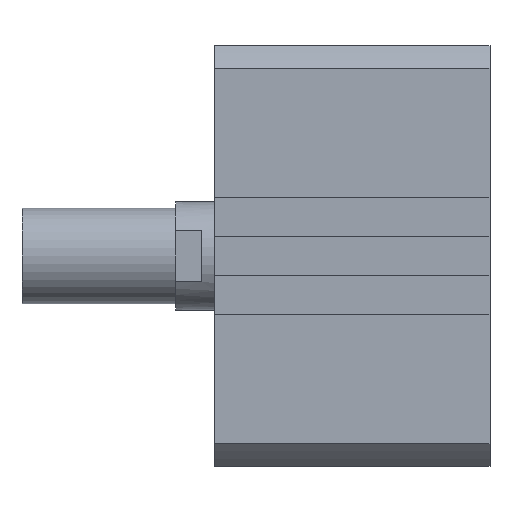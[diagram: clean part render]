
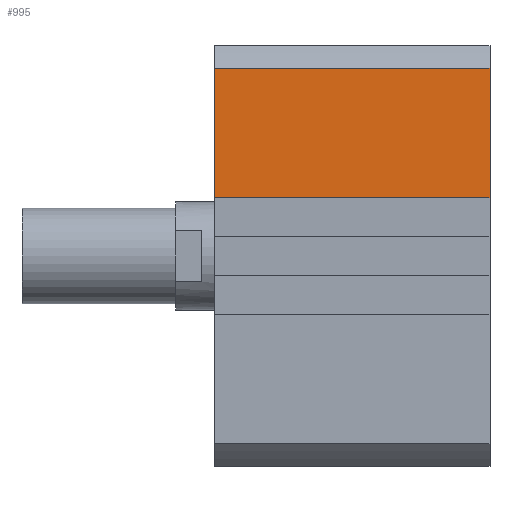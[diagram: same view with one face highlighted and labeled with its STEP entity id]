
A CAD part, left-side view. The second image highlights one B-rep face of the part: STEP entity #995.
In plain terms, the highlighted planar face has unit normal (-1, 0, 0).
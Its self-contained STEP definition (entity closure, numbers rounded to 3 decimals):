
#22 = LINE ( 'NONE', #1138, #660 ) ;
#46 = LINE ( 'NONE', #1944, #2120 ) ;
#54 = VECTOR ( 'NONE', #638, 1000. ) ;
#111 = EDGE_CURVE ( 'NONE', #1098, #2470, #22, .T. ) ;
#288 = LINE ( 'NONE', #1695, #54 ) ;
#595 = AXIS2_PLACEMENT_3D ( 'NONE', #1440, #1182, #1414 ) ;
#617 = FACE_OUTER_BOUND ( 'NONE', #709, .T. ) ;
#638 = DIRECTION ( 'NONE',  ( 0., 0., 1. ) ) ;
#660 = VECTOR ( 'NONE', #2455, 1000. ) ;
#709 = EDGE_LOOP ( 'NONE', ( #1106, #3368, #1676, #2463 ) ) ;
#894 = EDGE_CURVE ( 'NONE', #1390, #1717, #2620, .T. ) ;
#995 = ADVANCED_FACE ( 'NONE', ( #617 ), #2751, .T. ) ;
#1098 = VERTEX_POINT ( 'NONE', #3070 ) ;
#1106 = ORIENTED_EDGE ( 'NONE', *, *, #2272, .F. ) ;
#1120 = CARTESIAN_POINT ( 'NONE',  ( -48.5, -63.5, 13.5 ) ) ;
#1138 = CARTESIAN_POINT ( 'NONE',  ( -48.5, -63.5, 43.275 ) ) ;
#1182 = DIRECTION ( 'NONE',  ( -1., 0., 0. ) ) ;
#1383 = DIRECTION ( 'NONE',  ( 0., 1., 0. ) ) ;
#1390 = VERTEX_POINT ( 'NONE', #1120 ) ;
#1414 = DIRECTION ( 'NONE',  ( 0., 0., 1. ) ) ;
#1440 = CARTESIAN_POINT ( 'NONE',  ( -48.5, -63.5, 0. ) ) ;
#1485 = EDGE_CURVE ( 'NONE', #1390, #1098, #288, .T. ) ;
#1676 = ORIENTED_EDGE ( 'NONE', *, *, #1485, .T. ) ;
#1695 = CARTESIAN_POINT ( 'NONE',  ( -48.5, -63.5, 0. ) ) ;
#1717 = VERTEX_POINT ( 'NONE', #2050 ) ;
#1918 = CARTESIAN_POINT ( 'NONE',  ( -48.5, 0., 43.275 ) ) ;
#1932 = VECTOR ( 'NONE', #1383, 1000. ) ;
#1944 = CARTESIAN_POINT ( 'NONE',  ( -48.5, 0., 0. ) ) ;
#2050 = CARTESIAN_POINT ( 'NONE',  ( -48.5, 0., 13.5 ) ) ;
#2120 = VECTOR ( 'NONE', #2479, 1000. ) ;
#2272 = EDGE_CURVE ( 'NONE', #1717, #2470, #46, .T. ) ;
#2455 = DIRECTION ( 'NONE',  ( 0., 1., 0. ) ) ;
#2463 = ORIENTED_EDGE ( 'NONE', *, *, #111, .T. ) ;
#2470 = VERTEX_POINT ( 'NONE', #1918 ) ;
#2479 = DIRECTION ( 'NONE',  ( 0., 0., 1. ) ) ;
#2620 = LINE ( 'NONE', #2662, #1932 ) ;
#2662 = CARTESIAN_POINT ( 'NONE',  ( -48.5, -63.5, 13.5 ) ) ;
#2751 = PLANE ( 'NONE',  #595 ) ;
#3070 = CARTESIAN_POINT ( 'NONE',  ( -48.5, -63.5, 43.275 ) ) ;
#3368 = ORIENTED_EDGE ( 'NONE', *, *, #894, .F. ) ;
